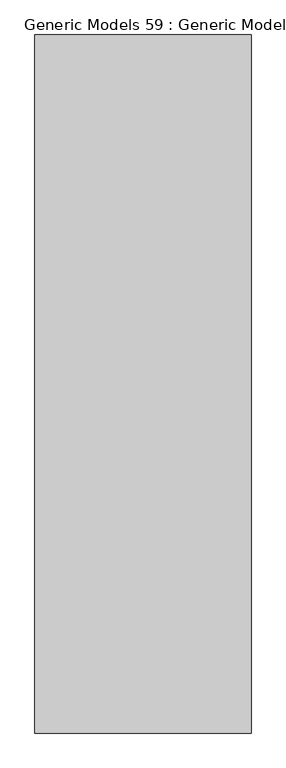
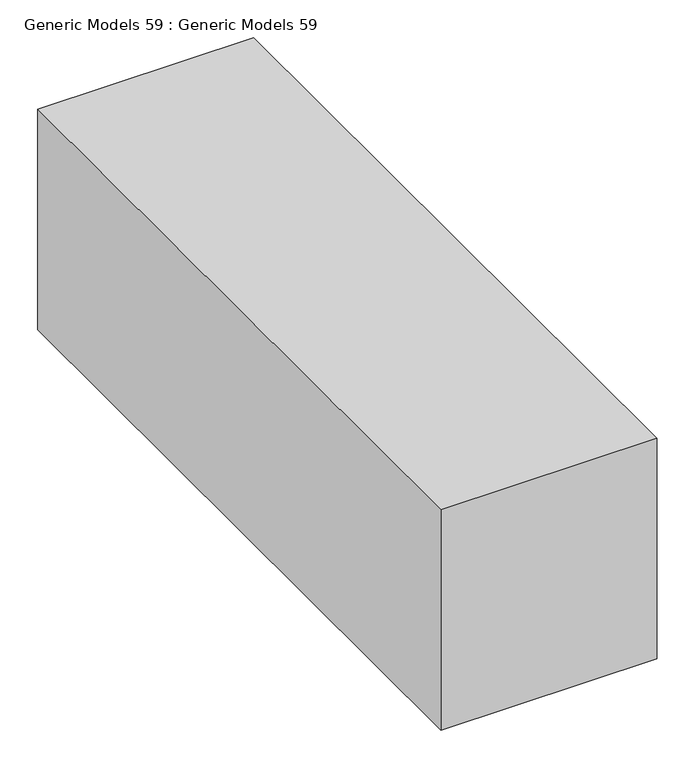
"""IFC4 building model written with IfcOpenShell, lengths in millimetres: proxy geometry, Generic Models 59 : Generic Models 59."""

from ifc_helpers import new_model, si_unit, frame, origin, place, context, project, spatial, polyline, outline, extrude, source, transform, mapped, element, save


def generic_models_59_generic_models_59_640be4be(model_context):
    return source(origin(), model_context, "Body", "SweptSolid", [
        extrude(outline(polyline([(-1593.85, 11379.2), (-1924.05, 11379.2), (-1924.05, 12445.8947939), (-1593.85, 12445.8947939), (-1593.85, 11379.2)])), frame((0.0, 0.0, 5943.6), z_axis=(0.0, 0.0, 1.0), x_axis=(1.0, 0.0, 0.0)), (0.0, 0.0, 1.0), 355.6),
    ])


if __name__ == "__main__":
    model = new_model("IFC4")
    model_context = context("Model", 3, world=origin())
    ifc_project = project(units=[si_unit("LENGTHUNIT", "METRE", prefix="MILLI")], contexts=[model_context])
    site = spatial("IfcSite", under=ifc_project)
    building = spatial("IfcBuilding", under=site)
    placement = place(None, origin())
    generic_models_59_generic_models_59_shape = generic_models_59_generic_models_59_640be4be(model_context)
    element("IfcBuildingElementProxy", 1, Name="Generic Models 59 : Generic Models 59", ObjectType="Generic Models 59 : Generic Models 59", at=placement, inside=building, context=model_context, shape_type="MappedRepresentation", body=[
        mapped(generic_models_59_generic_models_59_shape, transform((0.0, 0.0, 0.0), x_axis=(1.0, 0.0, 0.0), y_axis=(0.0, 1.0, 0.0), z_axis=(0.0, 0.0, 1.0))),
    ])
    save(model, "model.ifc")
